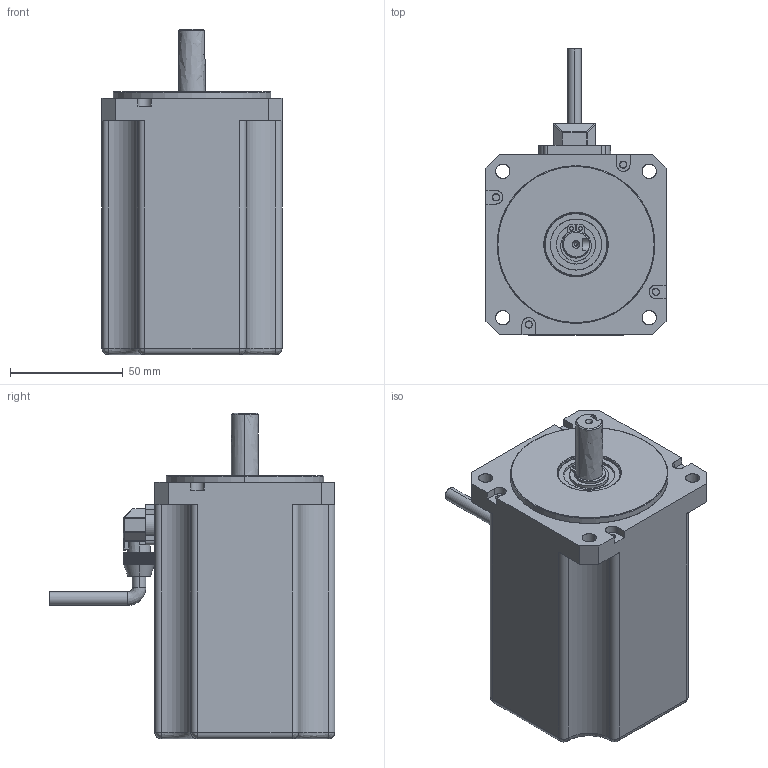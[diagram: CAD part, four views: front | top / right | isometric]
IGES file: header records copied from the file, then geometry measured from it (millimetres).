
Start section: SolidWorks IGES file using analytic representation for surfaces
Global section: file name: C:\Users\Administrator\Desktop\俋夤芞\CP80\梓袧こ\NCA30096-X4.igs; native system: SolidWorks 2016; preprocessor: SolidWorks 2016; author: Administrator; date: 180718.162639; units: millimetre
Bounding box: 80 x 126.97 x 144.8 mm (x, y, z)
Surface area: 53572.4 mm2 (no closed solid volume)
Topology: 0 solids, 0 shells, 612 faces, 8079 edges, 8034 vertices
Faces by surface type: revolution 434, bspline 178
